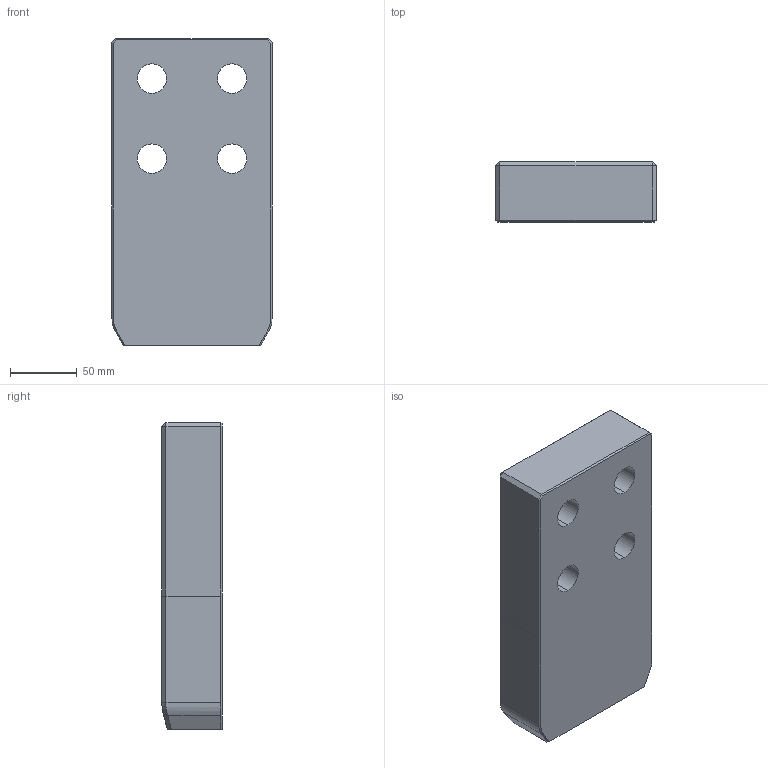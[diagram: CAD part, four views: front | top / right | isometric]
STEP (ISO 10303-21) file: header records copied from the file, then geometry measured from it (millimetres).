
FILE_DESCRIPTION((''),'2;1');
FILE_NAME('','2010-09-08T12:55:11+09:00',('misumi'),(''),'M/STEP i/f 1R2-14','CADmeister v5.1','');
FILE_SCHEMA(('AUTOMOTIVE_DESIGN'));
Length unit declared in the file: millimetre
Products named in the file (1): OGP120-230
Bounding box: 120 x 45 x 230 mm (x, y, z)
Volume: 1157521.1 mm3; surface area: 94395.4 mm2
Topology: 1 solids, 1 shells, 53 faces, 128 edges, 78 vertices
Faces by surface type: plane 32, cylinder 13, bspline 6, cone 2
Entity records: 1903 total; most frequent: CARTESIAN_POINT 598, ORIENTED_EDGE 248, DIRECTION 234, EDGE_CURVE 124, LINE 82, VECTOR 82, AXIS2_PLACEMENT_3D 76, VERTEX_POINT 74
